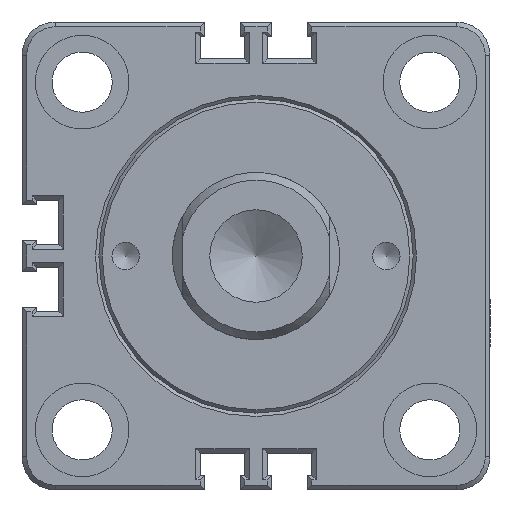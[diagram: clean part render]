
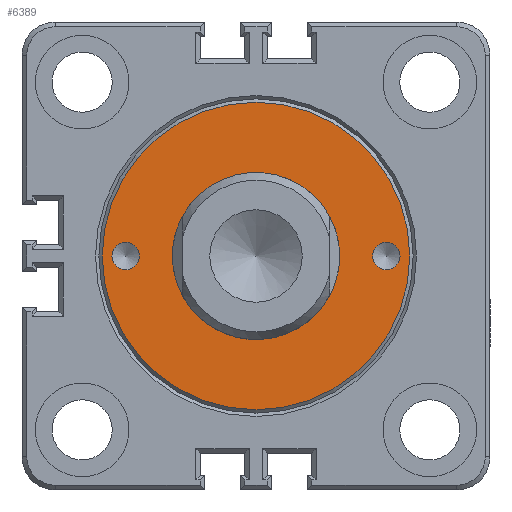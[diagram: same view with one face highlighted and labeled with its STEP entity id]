
A CAD part, front view. The second image highlights one B-rep face of the part: STEP entity #6389.
In plain terms, the highlighted planar face has unit normal (0, -1, 0).
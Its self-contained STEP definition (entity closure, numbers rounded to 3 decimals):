
#168=PLANE('',#6745);
#374=CIRCLE('',#6742,23.);
#375=CIRCLE('',#6744,12.5);
#376=CIRCLE('',#6746,2.05);
#377=CIRCLE('',#6747,2.05);
#1927=ORIENTED_EDGE('',*,*,#2895,.T.);
#1928=ORIENTED_EDGE('',*,*,#2894,.F.);
#1929=ORIENTED_EDGE('',*,*,#2896,.T.);
#1930=ORIENTED_EDGE('',*,*,#2893,.T.);
#2893=EDGE_CURVE('',#3386,#3386,#374,.T.);
#2894=EDGE_CURVE('',#3387,#3387,#375,.T.);
#2895=EDGE_CURVE('',#3388,#3388,#376,.T.);
#2896=EDGE_CURVE('',#3389,#3389,#377,.T.);
#3386=VERTEX_POINT('',#9700);
#3387=VERTEX_POINT('',#9703);
#3388=VERTEX_POINT('',#9706);
#3389=VERTEX_POINT('',#9708);
#3705=EDGE_LOOP('',(#1927));
#3706=EDGE_LOOP('',(#1928));
#3707=EDGE_LOOP('',(#1929));
#3708=EDGE_LOOP('',(#1930));
#4053=FACE_BOUND('',#3705,.T.);
#4054=FACE_BOUND('',#3706,.T.);
#4055=FACE_BOUND('',#3707,.T.);
#4056=FACE_BOUND('',#3708,.T.);
#6389=ADVANCED_FACE('',(#4053,#4054,#4055,#4056),#168,.T.);
#6742=AXIS2_PLACEMENT_3D('',#9699,#7616,#7617);
#6744=AXIS2_PLACEMENT_3D('',#9702,#7620,#7621);
#6745=AXIS2_PLACEMENT_3D('',#9704,#7622,#7623);
#6746=AXIS2_PLACEMENT_3D('',#9705,#7624,#7625);
#6747=AXIS2_PLACEMENT_3D('',#9707,#7626,#7627);
#7616=DIRECTION('',(0.,-1.,0.));
#7617=DIRECTION('',(0.,0.,-1.));
#7620=DIRECTION('',(0.,-1.,0.));
#7621=DIRECTION('',(1.,0.,0.));
#7622=DIRECTION('',(0.,-1.,0.));
#7623=DIRECTION('',(1.,0.,0.));
#7624=DIRECTION('',(0.,1.,0.));
#7625=DIRECTION('',(0.,0.,-1.));
#7626=DIRECTION('',(0.,1.,0.));
#7627=DIRECTION('',(0.,0.,-1.));
#9699=CARTESIAN_POINT('',(0.,0.,0.));
#9700=CARTESIAN_POINT('',(0.,0.,-23.));
#9702=CARTESIAN_POINT('',(0.,0.,0.));
#9703=CARTESIAN_POINT('',(12.5,0.,0.));
#9704=CARTESIAN_POINT('',(-30.,0.,30.));
#9705=CARTESIAN_POINT('',(19.5,0.,0.));
#9706=CARTESIAN_POINT('',(19.5,0.,-2.05));
#9707=CARTESIAN_POINT('',(-19.5,0.,0.));
#9708=CARTESIAN_POINT('',(-19.5,0.,-2.05));
